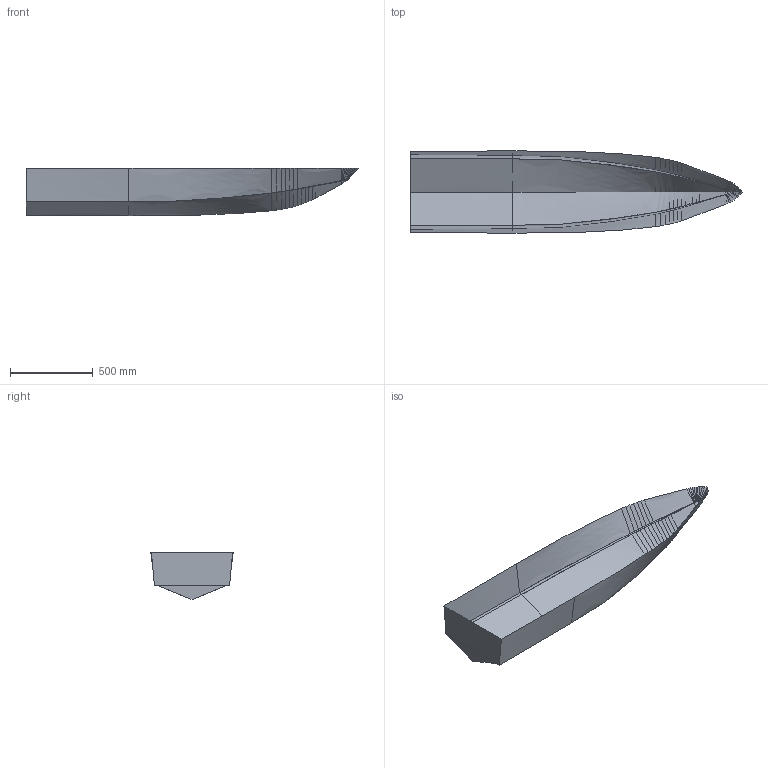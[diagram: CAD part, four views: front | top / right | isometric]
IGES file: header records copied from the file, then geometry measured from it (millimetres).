
Global section: file name: \\filestore.soton.ac.uk\users\djt2\mydocuments\Library\MyPublications\Journal\2011-IJSCT96-HSC Resistance\Models\HULL D.igs; native system: Rhinoceros ( May 22 2017 ); preprocessor: Trout Lake IGES 012 May 22 2017; date: 180801.114753; units: millimetre
Bounding box: 2000.03 x 495.63 x 284.88 mm (x, y, z)
Surface area: 1599897 mm2 (no closed solid volume)
Topology: 0 solids, 0 shells, 90 faces, 1227 edges, 1277 vertices
Faces by surface type: bspline 90
